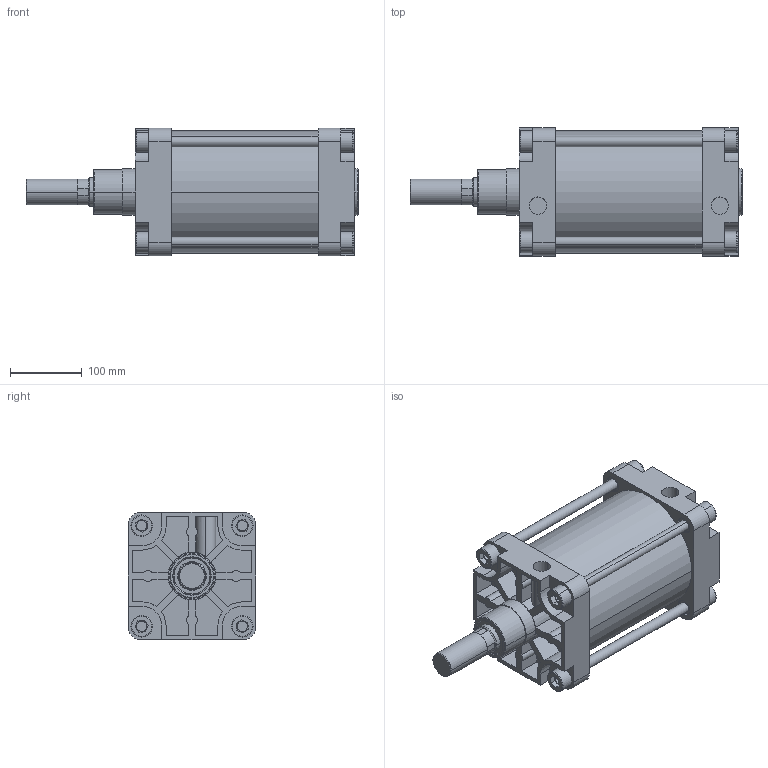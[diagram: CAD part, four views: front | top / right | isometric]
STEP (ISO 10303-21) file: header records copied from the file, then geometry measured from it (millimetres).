
FILE_DESCRIPTION(('CATIA V5 STEP Exchange'),'2;1');
FILE_NAME('D:\stp file for catalog\PNC\160\PNC 160-40-125-00.stp','2015-09-13T12:19:26+00:00',('none'),('none'),'Version 5-6 Release 2012','CATIA V5 STEP AP203','none');
FILE_SCHEMA(('CONFIG_CONTROL_DESIGN'));
Length unit declared in the file: millimetre
Products named in the file (1): PNC 160-40-125-00
Assembly tree (2 placements, depth 2):
  PNC 160-40-125-00
    #58
    #14957
Bounding box: 462 x 178 x 178 mm (x, y, z)
Volume: 4796671.8 mm3; surface area: 744866.8 mm2
Topology: 6 solids, 6 shells, 583 faces, 1428 edges, 932 vertices
Faces by surface type: plane 349, cylinder 186, torus 26, extrusion 16, cone 6
Entity records: 15847 total; most frequent: CARTESIAN_POINT 3275, ORIENTED_EDGE 2856, DIRECTION 1940, EDGE_CURVE 1428, VERTEX_POINT 932, VECTOR 930, LINE 914, AXIS2_PLACEMENT_3D 715
